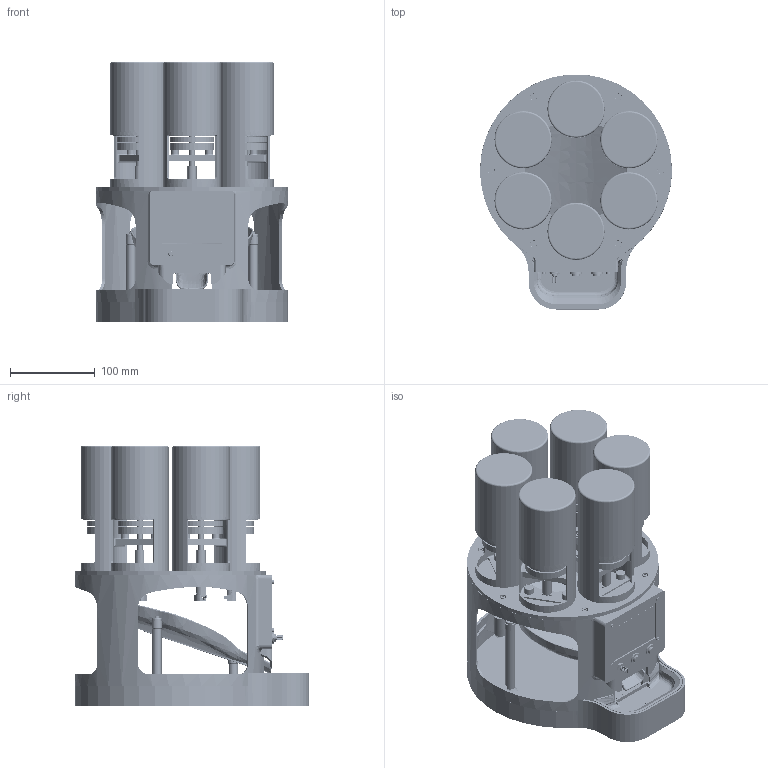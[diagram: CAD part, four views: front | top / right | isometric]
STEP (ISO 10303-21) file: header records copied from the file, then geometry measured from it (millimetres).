
FILE_DESCRIPTION(('Open CASCADE Model'),'2;1');
FILE_NAME('Open CASCADE Shape Model','2026-11-18T22:16:03',('Author'),( 'Open CASCADE'),'Open CASCADE STEP processor 7.9','Open CASCADE 7.9' ,'Unknown');
FILE_SCHEMA(('AUTOMOTIVE_DESIGN { 1 0 10303 214 1 1 1 1 }'));
Length unit declared in the file: millimetre
Products named in the file (147): Automatic_pill_dispenser; Dispensing_module_01; Canister; Lid; Rotating_catch; Fixed_singulator; Drive_shaft; Shaft_coupler; Pololu_gearmotor; Motor_face_screw_A; Motor_face_screw_B; Canister_attachment; Dispensing_module_02; Dispensing_module_03; Dispensing_module_04; Dispensing_module_05; Dispensing_module_06; Enclosure; Top_deck; Base; Open_access_prototype_housing; Base_1_M3x10_SHCS; Base_1_M3x6_heat_set_insert; Base_2_M3x10_SHCS; Base_2_M3x6_heat_set_insert; Base_3_M3x10_SHCS; Base_3_M3x6_heat_set_insert; Station_fasteners; Module_1_mount_1_M3x12_SHCS; Module_1_mount_1_M3_washer; Module_1_mount_2_M3x12_SHCS; Module_1_mount_2_M3_washer; Module_2_mount_1_M3x12_SHCS; Module_2_mount_1_M3_washer; Module_2_mount_2_M3x12_SHCS; Module_2_mount_2_M3_washer; Module_3_mount_1_M3x12_SHCS; Module_3_mount_1_M3_washer; Module_3_mount_2_M3x12_SHCS; Module_3_mount_2_M3_washer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
Assembly tree (191 placements, depth 3):
  Automatic_pill_dispenser
    Dispensing_module_01
      Canister
      Lid
      Rotating_catch
      Fixed_singulator
      Drive_shaft
      Shaft_coupler
      Pololu_gearmotor
      Motor_face_screw_A
      Motor_face_screw_B
      Canister_attachment
    Dispensing_module_02
      Canister
      Lid
      Rotating_catch
      Fixed_singulator
      Drive_shaft
      Shaft_coupler
      Pololu_gearmotor
      Motor_face_screw_A
      Motor_face_screw_B
      Canister_attachment
    Dispensing_module_03
      Canister
      Lid
      Rotating_catch
      Fixed_singulator
      Drive_shaft
      Shaft_coupler
      Pololu_gearmotor
      Motor_face_screw_A
      Motor_face_screw_B
      Canister_attachment
    Dispensing_module_04
      Canister
      Lid
      Rotating_catch
      Fixed_singulator
      Drive_shaft
      Shaft_coupler
      Pololu_gearmotor
      Motor_face_screw_A
      Motor_face_screw_B
      Canister_attachment
    Dispensing_module_05
      Canister
      Lid
      Rotating_catch
      Fixed_singulator
      Drive_shaft
      Shaft_coupler
      Pololu_gearmotor
      Motor_face_screw_A
      Motor_face_screw_B
      Canister_attachment
    Dispensing_module_06
      Canister
      Lid
      Rotating_catch
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Bounding box: 226 x 276.75 x 307 mm (x, y, z)
Volume: 1489441.4 mm3; surface area: 989183.8 mm2
Topology: 181 solids, 193 shells, 24300 faces, 69610 edges, 46406 vertices
Faces by surface type: cylinder 13794, plane 9159, bspline 853, cone 273, torus 183, extrusion 38
Full cylindrical faces by diameter (mm): 1 x40, 1.54 x6, 1.6 x16, 1.85 x12, 2.5 x8, 2.7 x4, 2.8 x4, 3 x57, 3.01 x15, 3.048 x4, 3.2 x33, 3.4 x7, 3.5 x3, 3.6 x6, 3.8 x6, 4 x12, 4.35 x6, 4.6 x24, 4.7 x4, 5 x32, 5.5 x28, 5.8 x2, 5.9 x2, 6.35 x6, 6.4 x3, 6.465 x6, 6.75 x6, 7 x20, 7.2 x1, 7.5 x1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
Entity records: 474120 total; most frequent: CARTESIAN_POINT 163851, DIRECTION 53075, ORIENTED_EDGE 32420, PCURVE 32420, DEFINITIONAL_REPRESENTATION 32420, VECTOR 25830, LINE 25792, EDGE_CURVE 16210
